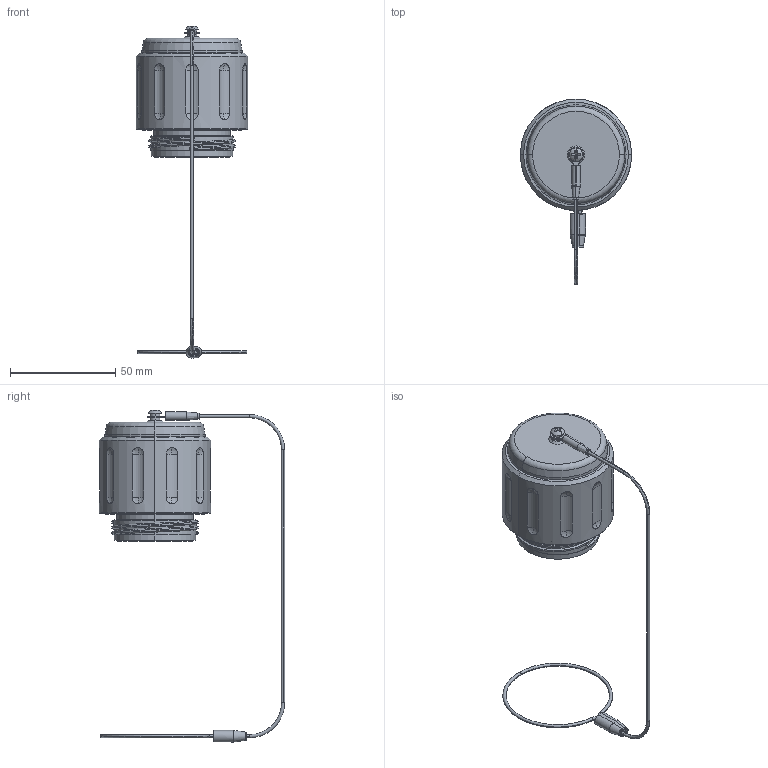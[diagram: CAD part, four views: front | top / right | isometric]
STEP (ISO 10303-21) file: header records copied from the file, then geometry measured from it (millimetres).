
FILE_DESCRIPTION (( 'STEP AP214' ), '1' );
FILE_NAME ('QFOCA-DCHX-1.62.STEP', '2025-06-09T20:46:18', ( '' ), ( '' ), 'SwSTEP 2.0', 'SolidWorks 2024', '' );
FILE_SCHEMA (( 'AUTOMOTIVE_DESIGN' ));
Length unit declared in the file: inch
Products named in the file (1): QFOCA-DCHX-1.62
Bounding box: 52.96 x 88.2 x 158.07 mm (x, y, z)
Volume: 71963.2 mm3; surface area: 31750.8 mm2
Topology: 9 solids, 9 shells, 349 faces, 835 edges, 532 vertices
Faces by surface type: cylinder 145, plane 80, torus 48, sphere 42, bspline 24, cone 10
Entity records: 13975 total; most frequent: CARTESIAN_POINT 6064, ORIENTED_EDGE 1670, DIRECTION 1601, EDGE_CURVE 835, AXIS2_PLACEMENT_3D 669, VERTEX_POINT 532, EDGE_LOOP 393, ADVANCED_FACE 349
